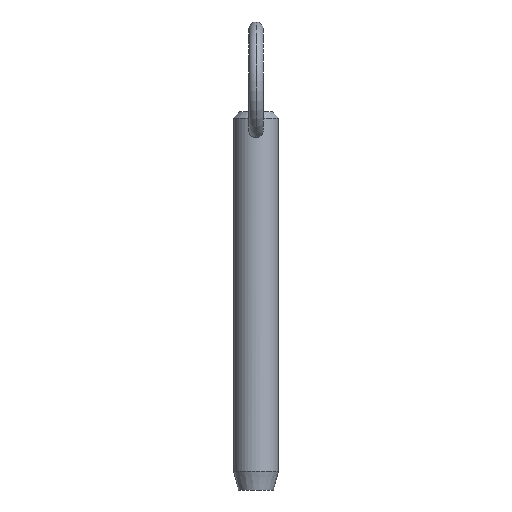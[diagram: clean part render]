
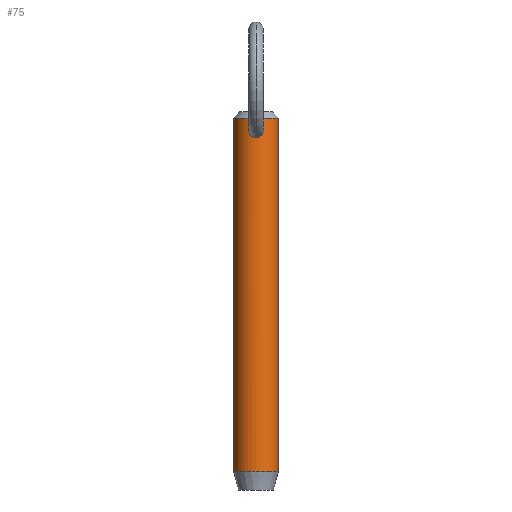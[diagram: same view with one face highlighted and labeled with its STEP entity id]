
A CAD part, front view. The second image highlights one B-rep face of the part: STEP entity #75.
In plain terms, the highlighted cylindrical face has radius 4.76 mm (diameter 9.52 mm), a partial arc.
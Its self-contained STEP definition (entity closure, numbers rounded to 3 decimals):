
#17 = LINE ( 'NONE', #319, #305 ) ;
#18 = VERTEX_POINT ( 'NONE', #107 ) ;
#19 = CARTESIAN_POINT ( 'NONE',  ( -1.247, -4.596, 62.552 ) ) ;
#30 = CARTESIAN_POINT ( 'NONE',  ( 0., -4.76, 61.926 ) ) ;
#36 = CARTESIAN_POINT ( 'NONE',  ( 1.45, -4.534, 63.028 ) ) ;
#38 = CARTESIAN_POINT ( 'NONE',  ( 0.104, -4.76, 65.248 ) ) ;
#55 = CARTESIAN_POINT ( 'NONE',  ( -1.353, -4.564, 62.735 ) ) ;
#59 = CARTESIAN_POINT ( 'NONE',  ( -1.508, -4.515, 63.337 ) ) ;
#68 = VERTEX_POINT ( 'NONE', #307 ) ;
#71 = CARTESIAN_POINT ( 'NONE',  ( 1.434, -4.539, 63.954 ) ) ;
#74 = CARTESIAN_POINT ( 'NONE',  ( 0.77, -4.698, 64.975 ) ) ;
#75 = ADVANCED_FACE ( 'NONE', ( #211, #183 ), #408, .T. ) ;
#76 = VERTEX_POINT ( 'NONE', #399 ) ;
#80 = B_SPLINE_CURVE_WITH_KNOTS ( 'NONE', 3,
 ( #30, #142, #99, #471, #398, #263, #222, #19, #55, #345, #59, #432, #104, #184, #146, #392, #182, #219, #103, #221, #394, #508 ),
 .UNSPECIFIED., .F., .F.,
 ( 4, 2, 2, 2, 2, 2, 2, 2, 2, 2, 4 ),
 ( 0.009, 0.01, 0.01, 0.011, 0.011, 0.012, 0.012, 0.013, 0.014, 0.014, 0.014 ),
 .UNSPECIFIED. ) ;
#83 = EDGE_CURVE ( 'NONE', #397, #68, #462, .T. ) ;
#88 = VERTEX_POINT ( 'NONE', #122 ) ;
#99 = CARTESIAN_POINT ( 'NONE',  ( -0.416, -4.746, 61.967 ) ) ;
#103 = CARTESIAN_POINT ( 'NONE',  ( -0.409, -4.743, 65.178 ) ) ;
#104 = CARTESIAN_POINT ( 'NONE',  ( -1.441, -4.537, 63.957 ) ) ;
#107 = CARTESIAN_POINT ( 'NONE',  ( 0., -4.76, 65.248 ) ) ;
#113 = DIRECTION ( 'NONE',  ( 0., 0., 1. ) ) ;
#117 = EDGE_CURVE ( 'NONE', #18, #88, #251, .T. ) ;
#120 = CARTESIAN_POINT ( 'NONE',  ( 1.404, -4.548, 64.053 ) ) ;
#122 = CARTESIAN_POINT ( 'NONE',  ( 0., -4.76, 61.926 ) ) ;
#124 = EDGE_CURVE ( 'NONE', #88, #18, #80, .T. ) ;
#129 = DIRECTION ( 'NONE',  ( 0., 0., -1. ) ) ;
#142 = CARTESIAN_POINT ( 'NONE',  ( -0.21, -4.76, 61.926 ) ) ;
#143 = DIRECTION ( 'NONE',  ( 0., 0., -1. ) ) ;
#146 = CARTESIAN_POINT ( 'NONE',  ( -1.19, -4.611, 64.524 ) ) ;
#154 = EDGE_CURVE ( 'NONE', #482, #68, #425, .T. ) ;
#160 = CARTESIAN_POINT ( 'NONE',  ( 1.503, -4.517, 63.44 ) ) ;
#164 = DIRECTION ( 'NONE',  ( -1., 0., 0. ) ) ;
#171 = ORIENTED_EDGE ( 'NONE', *, *, #201, .T. ) ;
#178 = CARTESIAN_POINT ( 'NONE',  ( 0.411, -4.743, 61.977 ) ) ;
#180 = CARTESIAN_POINT ( 'NONE',  ( 4.76, 0., 61. ) ) ;
#182 = CARTESIAN_POINT ( 'NONE',  ( -0.777, -4.7, 64.985 ) ) ;
#183 = FACE_BOUND ( 'NONE', #428, .T. ) ;
#184 = CARTESIAN_POINT ( 'NONE',  ( -1.292, -4.582, 64.345 ) ) ;
#191 = CARTESIAN_POINT ( 'NONE',  ( 0.687, -4.711, 65.035 ) ) ;
#192 = ORIENTED_EDGE ( 'NONE', *, *, #117, .T. ) ;
#198 = CARTESIAN_POINT ( 'NONE',  ( 1.344, -4.567, 62.739 ) ) ;
#201 = EDGE_CURVE ( 'NONE', #76, #397, #17, .T. ) ;
#202 = CARTESIAN_POINT ( 'NONE',  ( 4.76, 0., 66.05 ) ) ;
#211 = FACE_OUTER_BOUND ( 'NONE', #280, .T. ) ;
#219 = CARTESIAN_POINT ( 'NONE',  ( -0.504, -4.734, 65.138 ) ) ;
#221 = CARTESIAN_POINT ( 'NONE',  ( -0.208, -4.757, 65.234 ) ) ;
#222 = CARTESIAN_POINT ( 'NONE',  ( -1.039, -4.646, 62.326 ) ) ;
#234 = CARTESIAN_POINT ( 'NONE',  ( 1.492, -4.52, 63.648 ) ) ;
#240 = CARTESIAN_POINT ( 'NONE',  ( 1.19, -4.611, 64.524 ) ) ;
#251 = B_SPLINE_CURVE_WITH_KNOTS ( 'NONE', 3,
 ( #314, #38, #516, #442, #367, #191, #74, #518, #282, #240, #277, #120, #71, #361, #234, #160, #411, #446, #36, #450, #198, #490, #523, #284, #389, #256, #178, #475, #473, #266 ),
 .UNSPECIFIED., .F., .F.,
 ( 4, 2, 2, 2, 2, 2, 2, 2, 2, 2, 2, 2, 2, 2, 4 ),
 ( 0.004, 0.005, 0.005, 0.005, 0.006, 0.006, 0.007, 0.007, 0.007, 0.007, 0.008, 0.008, 0.009, 0.009, 0.009 ),
 .UNSPECIFIED. ) ;
#252 = DIRECTION ( 'NONE',  ( 1., 0., 0. ) ) ;
#256 = CARTESIAN_POINT ( 'NONE',  ( 0.512, -4.733, 62.008 ) ) ;
#263 = CARTESIAN_POINT ( 'NONE',  ( -0.961, -4.663, 62.257 ) ) ;
#266 = CARTESIAN_POINT ( 'NONE',  ( 0., -4.76, 61.926 ) ) ;
#267 = ORIENTED_EDGE ( 'NONE', *, *, #459, .T. ) ;
#277 = CARTESIAN_POINT ( 'NONE',  ( 1.293, -4.582, 64.342 ) ) ;
#280 = EDGE_LOOP ( 'NONE', ( #381, #267, #171, #423 ) ) ;
#282 = CARTESIAN_POINT ( 'NONE',  ( 0.997, -4.655, 64.764 ) ) ;
#284 = CARTESIAN_POINT ( 'NONE',  ( 0.97, -4.662, 62.25 ) ) ;
#291 = AXIS2_PLACEMENT_3D ( 'NONE', #496, #129, #252 ) ;
#292 = CARTESIAN_POINT ( 'NONE',  ( -4.76, 0., -8.7 ) ) ;
#305 = VECTOR ( 'NONE', #355, 1000. ) ;
#307 = CARTESIAN_POINT ( 'NONE',  ( 4.76, 0., -8.7 ) ) ;
#308 = VECTOR ( 'NONE', #143, 1000. ) ;
#314 = CARTESIAN_POINT ( 'NONE',  ( 0., -4.76, 65.248 ) ) ;
#317 = CARTESIAN_POINT ( 'NONE',  ( 0., 0., -8.7 ) ) ;
#319 = CARTESIAN_POINT ( 'NONE',  ( -4.76, 0., 61. ) ) ;
#326 = CIRCLE ( 'NONE', #291, 4.76 ) ;
#343 = ORIENTED_EDGE ( 'NONE', *, *, #124, .T. ) ;
#345 = CARTESIAN_POINT ( 'NONE',  ( -1.483, -4.524, 63.126 ) ) ;
#348 = CARTESIAN_POINT ( 'NONE',  ( 0., 0., 61. ) ) ;
#355 = DIRECTION ( 'NONE',  ( 0., 0., -1. ) ) ;
#361 = CARTESIAN_POINT ( 'NONE',  ( 1.478, -4.525, 63.752 ) ) ;
#367 = CARTESIAN_POINT ( 'NONE',  ( 0.506, -4.734, 65.137 ) ) ;
#381 = ORIENTED_EDGE ( 'NONE', *, *, #154, .F. ) ;
#389 = CARTESIAN_POINT ( 'NONE',  ( 0.797, -4.697, 62.129 ) ) ;
#392 = CARTESIAN_POINT ( 'NONE',  ( -0.932, -4.67, 64.845 ) ) ;
#393 = AXIS2_PLACEMENT_3D ( 'NONE', #317, #113, #164 ) ;
#394 = CARTESIAN_POINT ( 'NONE',  ( -0.103, -4.76, 65.248 ) ) ;
#397 = VERTEX_POINT ( 'NONE', #292 ) ;
#398 = CARTESIAN_POINT ( 'NONE',  ( -0.793, -4.694, 62.139 ) ) ;
#399 = CARTESIAN_POINT ( 'NONE',  ( -4.76, 0., 66.05 ) ) ;
#408 = CYLINDRICAL_SURFACE ( 'NONE', #421, 4.76 ) ;
#411 = CARTESIAN_POINT ( 'NONE',  ( 1.499, -4.518, 63.337 ) ) ;
#421 = AXIS2_PLACEMENT_3D ( 'NONE', #348, #513, #439 ) ;
#423 = ORIENTED_EDGE ( 'NONE', *, *, #83, .T. ) ;
#425 = LINE ( 'NONE', #180, #308 ) ;
#428 = EDGE_LOOP ( 'NONE', ( #192, #343 ) ) ;
#432 = CARTESIAN_POINT ( 'NONE',  ( -1.487, -4.522, 63.753 ) ) ;
#439 = DIRECTION ( 'NONE',  ( -1., 0., 0. ) ) ;
#442 = CARTESIAN_POINT ( 'NONE',  ( 0.409, -4.743, 65.178 ) ) ;
#446 = CARTESIAN_POINT ( 'NONE',  ( 1.473, -4.526, 63.131 ) ) ;
#450 = CARTESIAN_POINT ( 'NONE',  ( 1.385, -4.554, 62.832 ) ) ;
#459 = EDGE_CURVE ( 'NONE', #482, #76, #326, .T. ) ;
#462 = CIRCLE ( 'NONE', #393, 4.76 ) ;
#471 = CARTESIAN_POINT ( 'NONE',  ( -0.703, -4.709, 62.089 ) ) ;
#473 = CARTESIAN_POINT ( 'NONE',  ( 0.105, -4.76, 61.926 ) ) ;
#475 = CARTESIAN_POINT ( 'NONE',  ( 0.208, -4.757, 61.936 ) ) ;
#482 = VERTEX_POINT ( 'NONE', #202 ) ;
#490 = CARTESIAN_POINT ( 'NONE',  ( 1.24, -4.596, 62.56 ) ) ;
#496 = CARTESIAN_POINT ( 'NONE',  ( 0., 0., 66.05 ) ) ;
#508 = CARTESIAN_POINT ( 'NONE',  ( 0., -4.76, 65.248 ) ) ;
#513 = DIRECTION ( 'NONE',  ( 0., 0., -1. ) ) ;
#516 = CARTESIAN_POINT ( 'NONE',  ( 0.209, -4.756, 65.234 ) ) ;
#518 = CARTESIAN_POINT ( 'NONE',  ( 0.925, -4.67, 64.839 ) ) ;
#523 = CARTESIAN_POINT ( 'NONE',  ( 1.178, -4.613, 62.476 ) ) ;
